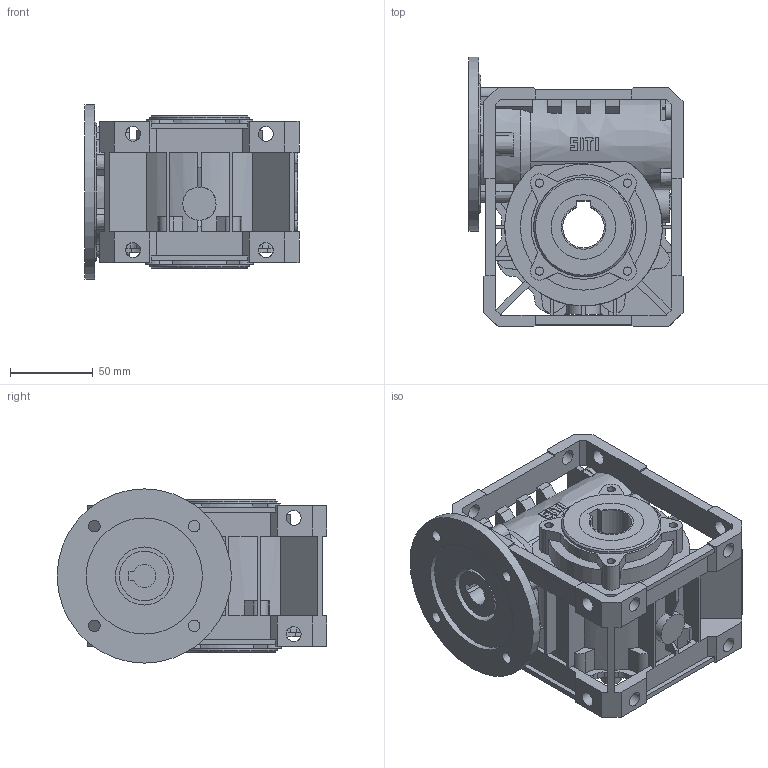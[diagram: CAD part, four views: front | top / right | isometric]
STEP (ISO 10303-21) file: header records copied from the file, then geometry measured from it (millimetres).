
FILE_DESCRIPTION (( 'STEP AP203' ), '1' );
FILE_NAME ('MU50 PAM 71 B14.STEP', '2016-03-10T08:34:56', ( 'm.piscopiello' ), ( '' ), 'SwSTEP 2.0', 'SolidWorks 2015', '' );
FILE_SCHEMA (( 'CONFIG_CONTROL_DESIGN' ));
Length unit declared in the file: millimetre
Products named in the file (1): MU50 PAM 71 B14
Bounding box: 129 x 162.5 x 105 mm (x, y, z)
Volume: 944713.7 mm3; surface area: 153055.6 mm2
Topology: 1 solids, 7 shells, 735 faces, 2189 edges, 1440 vertices
Faces by surface type: plane 480, cylinder 204, cone 51
Full cylindrical faces by diameter (mm): 4.5 x4, 4.917 x10, 5.37 x4, 7 x4, 9 x14, 20 x1, 30 x1, 35 x1, 60 x2, 70 x1, 105 x1
Entity records: 27233 total; most frequent: CARTESIAN_POINT 7631, ORIENTED_EDGE 4230, DIRECTION 3861, EDGE_CURVE 2115, VERTEX_POINT 1417, LINE 1331, VECTOR 1331, AXIS2_PLACEMENT_3D 1265
